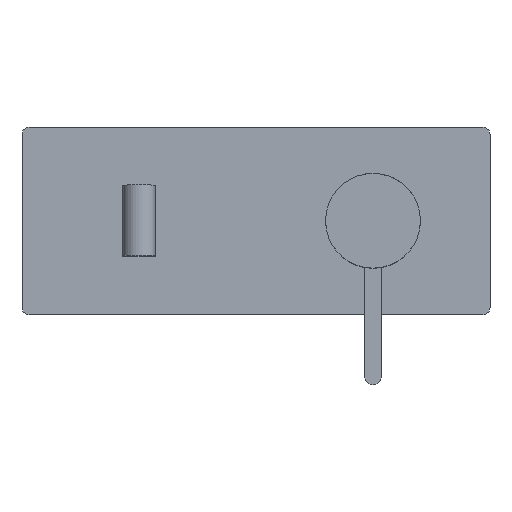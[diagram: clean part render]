
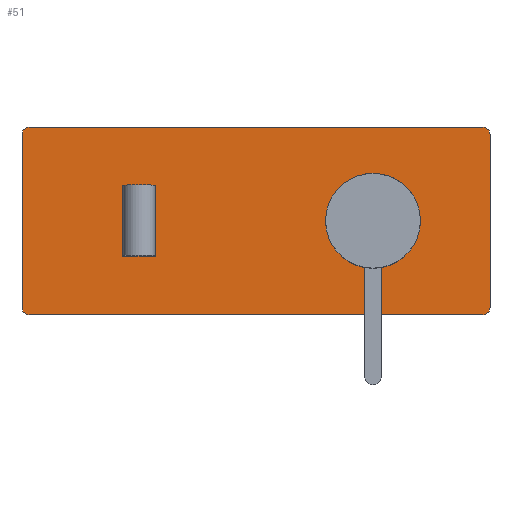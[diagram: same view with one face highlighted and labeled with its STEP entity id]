
A CAD part, top view. The second image highlights one B-rep face of the part: STEP entity #51.
In plain terms, the highlighted planar face has unit normal (0, 0, 1).
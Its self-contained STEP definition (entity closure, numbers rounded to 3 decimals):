
#51 = ADVANCED_FACE('',(#52),#122,.T.);
#52 = FACE_BOUND('',#53,.T.);
#53 = EDGE_LOOP('',(#54,#64,#73,#81,#90,#98,#107,#115));
#54 = ORIENTED_EDGE('',*,*,#55,.T.);
#55 = EDGE_CURVE('',#56,#58,#60,.T.);
#56 = VERTEX_POINT('',#57);
#57 = CARTESIAN_POINT('',(97.,40.,5.
    ));
#58 = VERTEX_POINT('',#59);
#59 = CARTESIAN_POINT('',(-97.,40.,5.
    ));
#60 = LINE('',#61,#62);
#61 = CARTESIAN_POINT('',(97.,40.,5.
    ));
#62 = VECTOR('',#63,1.);
#63 = DIRECTION('',(-1.,0.,0.));
#64 = ORIENTED_EDGE('',*,*,#65,.T.);
#65 = EDGE_CURVE('',#58,#66,#68,.T.);
#66 = VERTEX_POINT('',#67);
#67 = CARTESIAN_POINT('',(-100.,37.,5.
    ));
#68 = CIRCLE('',#69,3.);
#69 = AXIS2_PLACEMENT_3D('',#70,#71,#72);
#70 = CARTESIAN_POINT('',(-97.,37.,5.
    ));
#71 = DIRECTION('',(0.,0.,1.));
#72 = DIRECTION('',(1.,0.,-0.));
#73 = ORIENTED_EDGE('',*,*,#74,.T.);
#74 = EDGE_CURVE('',#66,#75,#77,.T.);
#75 = VERTEX_POINT('',#76);
#76 = CARTESIAN_POINT('',(-100.,-37.,5.));
#77 = LINE('',#78,#79);
#78 = CARTESIAN_POINT('',(-100.,37.,5.
    ));
#79 = VECTOR('',#80,1.);
#80 = DIRECTION('',(0.,-1.,0.));
#81 = ORIENTED_EDGE('',*,*,#82,.T.);
#82 = EDGE_CURVE('',#75,#83,#85,.T.);
#83 = VERTEX_POINT('',#84);
#84 = CARTESIAN_POINT('',(-97.,-40.,5.));
#85 = CIRCLE('',#86,3.);
#86 = AXIS2_PLACEMENT_3D('',#87,#88,#89);
#87 = CARTESIAN_POINT('',(-97.,-37.,5.));
#88 = DIRECTION('',(0.,0.,1.));
#89 = DIRECTION('',(1.,0.,-0.));
#90 = ORIENTED_EDGE('',*,*,#91,.T.);
#91 = EDGE_CURVE('',#83,#92,#94,.T.);
#92 = VERTEX_POINT('',#93);
#93 = CARTESIAN_POINT('',(97.,-40.,5.));
#94 = LINE('',#95,#96);
#95 = CARTESIAN_POINT('',(-97.,-40.,5.));
#96 = VECTOR('',#97,1.);
#97 = DIRECTION('',(1.,0.,0.));
#98 = ORIENTED_EDGE('',*,*,#99,.T.);
#99 = EDGE_CURVE('',#92,#100,#102,.T.);
#100 = VERTEX_POINT('',#101);
#101 = CARTESIAN_POINT('',(100.,-37.,5.));
#102 = CIRCLE('',#103,3.);
#103 = AXIS2_PLACEMENT_3D('',#104,#105,#106);
#104 = CARTESIAN_POINT('',(97.,-37.,5.));
#105 = DIRECTION('',(0.,0.,1.));
#106 = DIRECTION('',(1.,0.,-0.));
#107 = ORIENTED_EDGE('',*,*,#108,.T.);
#108 = EDGE_CURVE('',#100,#109,#111,.T.);
#109 = VERTEX_POINT('',#110);
#110 = CARTESIAN_POINT('',(100.,37.,5.));
#111 = LINE('',#112,#113);
#112 = CARTESIAN_POINT('',(100.,-37.,5.));
#113 = VECTOR('',#114,1.);
#114 = DIRECTION('',(0.,1.,0.));
#115 = ORIENTED_EDGE('',*,*,#116,.T.);
#116 = EDGE_CURVE('',#109,#56,#117,.T.);
#117 = CIRCLE('',#118,3.);
#118 = AXIS2_PLACEMENT_3D('',#119,#120,#121);
#119 = CARTESIAN_POINT('',(97.,37.,
    5.));
#120 = DIRECTION('',(0.,0.,1.));
#121 = DIRECTION('',(1.,0.,-0.));
#122 = PLANE('',#123);
#123 = AXIS2_PLACEMENT_3D('',#124,#125,#126);
#124 = CARTESIAN_POINT('',(-97.,40.,
    5.));
#125 = DIRECTION('',(0.,0.,1.));
#126 = DIRECTION('',(-1.,0.,0.));
